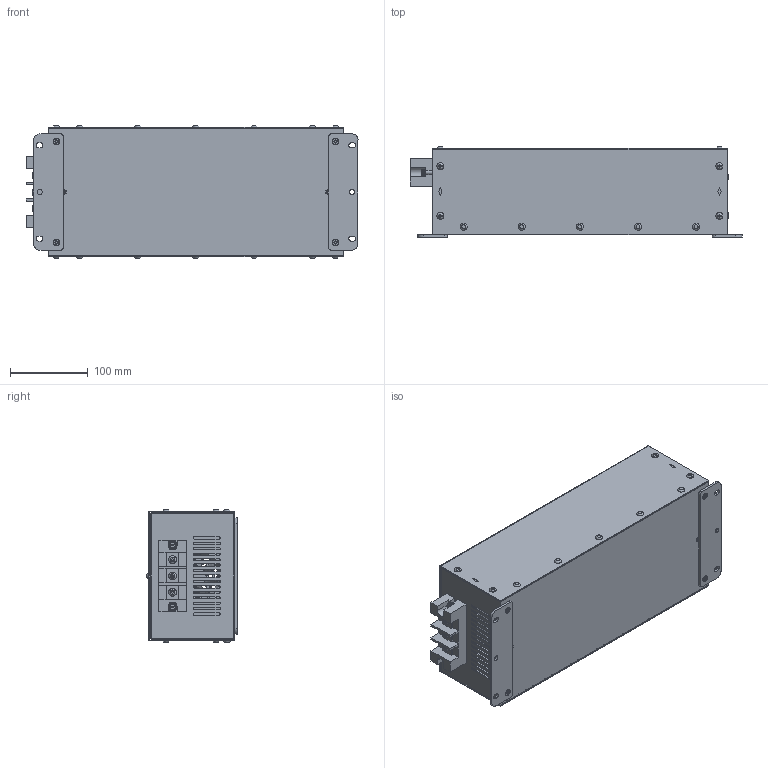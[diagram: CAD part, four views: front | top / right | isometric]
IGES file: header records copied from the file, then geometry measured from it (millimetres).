
Global section: file name: VX2A; native system: Autodesk Inventor 2021; preprocessor: unknown; author: eunsol jang; date: 20230224.160113; units: inch
Bounding box: 427 x 116.46 x 171.09 mm (x, y, z)
Volume: 474521.4 mm3; surface area: 584329.6 mm2
Topology: 9 solids, 11 shells, 1889 faces, 5132 edges, 3348 vertices
Faces by surface type: bspline 1889
